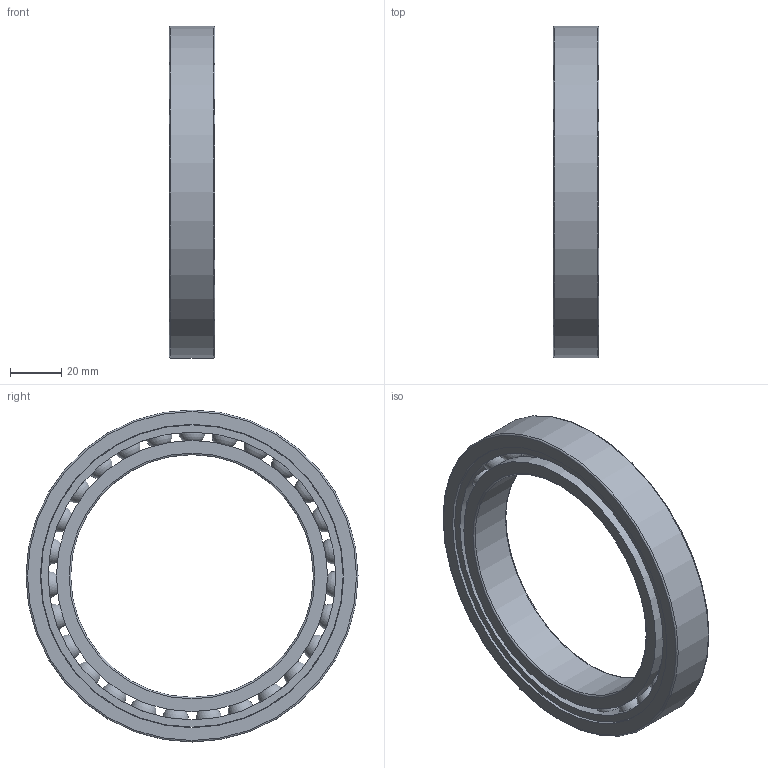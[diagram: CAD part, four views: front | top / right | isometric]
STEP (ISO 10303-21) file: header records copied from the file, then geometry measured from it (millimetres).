
FILE_DESCRIPTION(/* description */ (''),/* implementation_level */ '2;1');
FILE_NAME(/* name */ 'S_61919_TA.step',/* time_stamp */ '2013-03-06T14:48:50+01:00',/* author */ ('Marian'),/* organization */ ('GMN'),/* preprocessor_version */ 'ST-DEVELOPER v11',/* originating_system */ 'SIEMENS UGS NX 6.0',/* authorisation */ '');
FILE_SCHEMA (('CONFIG_CONTROL_DESIGN'));
Length unit declared in the file: millimetre
Products named in the file (1): S_61919_TA
Bounding box: 18 x 130 x 130 mm (x, y, z)
Volume: 83649.4 mm3; surface area: 53531.2 mm2
Topology: 30 solids, 30 shells, 74 faces, 196 edges, 128 vertices
Faces by surface type: cylinder 34, sphere 27, torus 6, plane 6, cone 1
Full cylindrical faces by diameter (mm): 10.519 x27, 95 x1, 106.2 x2, 112.639 x1, 118.35 x1, 118.75 x1, 130 x1
Entity records: 2496 total; most frequent: CARTESIAN_POINT 1168, DIRECTION 190, FACE_BOUND 175, EDGE_LOOP 148, ORIENTED_EDGE 148, VERTEX_POINT 101, AXIS2_PLACEMENT_3D 95, EDGE_CURVE 74
